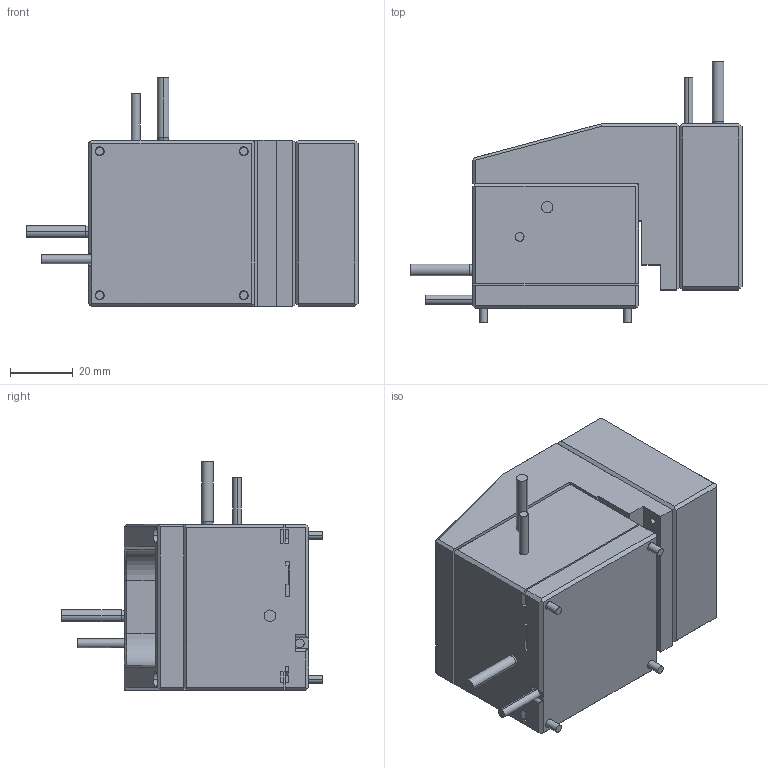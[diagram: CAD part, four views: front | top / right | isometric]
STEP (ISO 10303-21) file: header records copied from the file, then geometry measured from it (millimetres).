
FILE_DESCRIPTION((''),'2;1');
FILE_NAME('782325_040_26_MANIPUL_SW0001','2026-03-31T12:44:05',('JMarhoffer'),(''),'CREO PARAMETRIC BY PTC INC, 2025123','CREO PARAMETRIC BY PTC INC, 2025123','');
FILE_SCHEMA(('AP242_MANAGED_MODEL_BASED_3D_ENGINEERING_MIM_LF { 1 0 10303 442 1 1 4 }'));
Length unit declared in the file: millimetre
Products named in the file (1): 782325_040_26_MANIPUL_SW0001
Bounding box: 106 x 83.4 x 73 mm (x, y, z)
Volume: 230389.8 mm3; surface area: 32869.2 mm2
Topology: 1 solids, 1 shells, 494 faces, 1196 edges, 777 vertices
Faces by surface type: plane 317, cylinder 143, cone 28, bspline 6
Entity records: 21364 total; most frequent: CARTESIAN_POINT 2855, DIRECTION 2479, ORIENTED_EDGE 2392, PRESENTATION_STYLE_ASSIGNMENT 1548, STYLED_ITEM 1197, CURVE_STYLE 1196, EDGE_CURVE 1196, VECTOR 829
